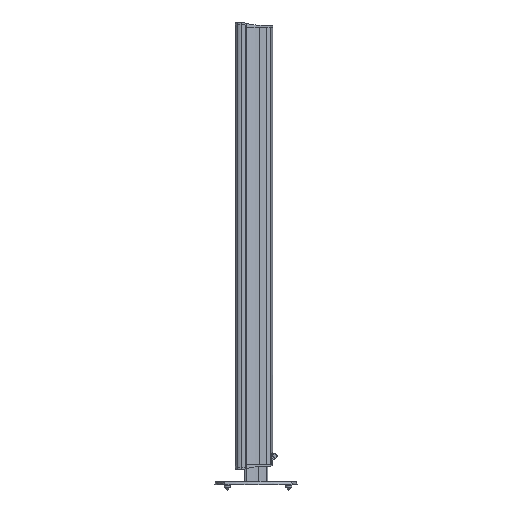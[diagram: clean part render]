
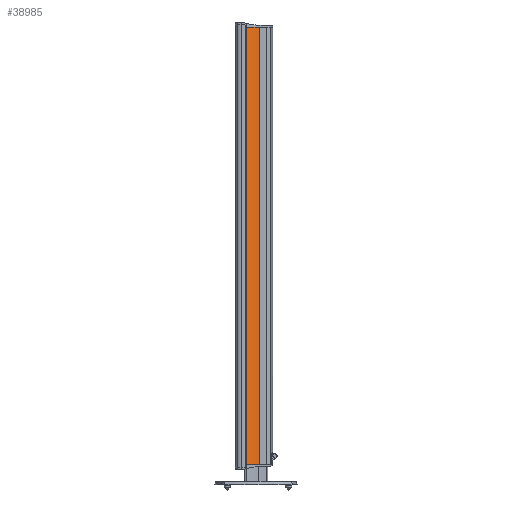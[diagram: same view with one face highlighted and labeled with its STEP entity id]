
A CAD part, left-side view. The second image highlights one B-rep face of the part: STEP entity #38985.
In plain terms, the highlighted cylindrical face has radius 145.735 mm (diameter 291.469 mm), a partial arc.
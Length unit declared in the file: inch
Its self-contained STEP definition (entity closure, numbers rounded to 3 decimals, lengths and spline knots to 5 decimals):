
#608 = ORIENTED_EDGE ( 'NONE', *, *, #12108, .T. ) ;
#641 = EDGE_CURVE ( 'NONE', #27245, #20802, #11078, .T. ) ;
#648 = AXIS2_PLACEMENT_3D ( 'NONE', #1363, #41630, #38096 ) ;
#1363 = CARTESIAN_POINT ( 'NONE',  ( -11.12429, 1.11877, 74.168 ) ) ;
#1493 = CARTESIAN_POINT ( 'NONE',  ( -6.10307, 3.89497, 0. ) ) ;
#4999 = DIRECTION ( 'NONE',  ( 0., 0., -1. ) ) ;
#5182 = CARTESIAN_POINT ( 'NONE',  ( -5.41129, 1.64945, 74.168 ) ) ;
#5798 = EDGE_CURVE ( 'NONE', #41231, #20802, #12791, .T. ) ;
#6164 = CARTESIAN_POINT ( 'NONE',  ( -6.10307, 3.89497, 74.168 ) ) ;
#8285 = ORIENTED_EDGE ( 'NONE', *, *, #641, .F. ) ;
#11078 = CIRCLE ( 'NONE', #17440, 5.73759 ) ;
#11759 = CIRCLE ( 'NONE', #37896, 5.73759 ) ;
#12108 = EDGE_CURVE ( 'NONE', #27245, #28334, #18913, .T. ) ;
#12791 = LINE ( 'NONE', #22542, #22058 ) ;
#13336 = DIRECTION ( 'NONE',  ( 0., 0., -1. ) ) ;
#15189 = DIRECTION ( 'NONE',  ( -1., 0., 0. ) ) ;
#17440 = AXIS2_PLACEMENT_3D ( 'NONE', #26405, #13336, #40343 ) ;
#18913 = LINE ( 'NONE', #31547, #29706 ) ;
#20010 = EDGE_CURVE ( 'NONE', #28334, #41231, #11759, .T. ) ;
#20802 = VERTEX_POINT ( 'NONE', #5182 ) ;
#22058 = VECTOR ( 'NONE', #29180, 39.37008 ) ;
#22542 = CARTESIAN_POINT ( 'NONE',  ( -5.41129, 1.64945, 37.084 ) ) ;
#25162 = DIRECTION ( 'NONE',  ( 0., 0., -1. ) ) ;
#26405 = CARTESIAN_POINT ( 'NONE',  ( -11.12429, 1.11877, 74.168 ) ) ;
#27245 = VERTEX_POINT ( 'NONE', #6164 ) ;
#28334 = VERTEX_POINT ( 'NONE', #1493 ) ;
#29180 = DIRECTION ( 'NONE',  ( 0., 0., 1. ) ) ;
#29706 = VECTOR ( 'NONE', #4999, 39.37008 ) ;
#31527 = ORIENTED_EDGE ( 'NONE', *, *, #20010, .T. ) ;
#31547 = CARTESIAN_POINT ( 'NONE',  ( -6.10307, 3.89497, 37.084 ) ) ;
#31665 = FACE_OUTER_BOUND ( 'NONE', #41779, .T. ) ;
#37896 = AXIS2_PLACEMENT_3D ( 'NONE', #42404, #25162, #15189 ) ;
#38096 = DIRECTION ( 'NONE',  ( -1., 0., 0. ) ) ;
#38985 = ADVANCED_FACE ( 'NONE', ( #31665 ), #41197, .F. ) ;
#40343 = DIRECTION ( 'NONE',  ( -1., 0., 0. ) ) ;
#41197 = CYLINDRICAL_SURFACE ( 'NONE', #648, 5.73759 ) ;
#41231 = VERTEX_POINT ( 'NONE', #42628 ) ;
#41630 = DIRECTION ( 'NONE',  ( 0., 0., -1. ) ) ;
#41777 = ORIENTED_EDGE ( 'NONE', *, *, #5798, .T. ) ;
#41779 = EDGE_LOOP ( 'NONE', ( #8285, #608, #31527, #41777 ) ) ;
#42404 = CARTESIAN_POINT ( 'NONE',  ( -11.12429, 1.11877, 0. ) ) ;
#42628 = CARTESIAN_POINT ( 'NONE',  ( -5.41129, 1.64945, 0. ) ) ;
